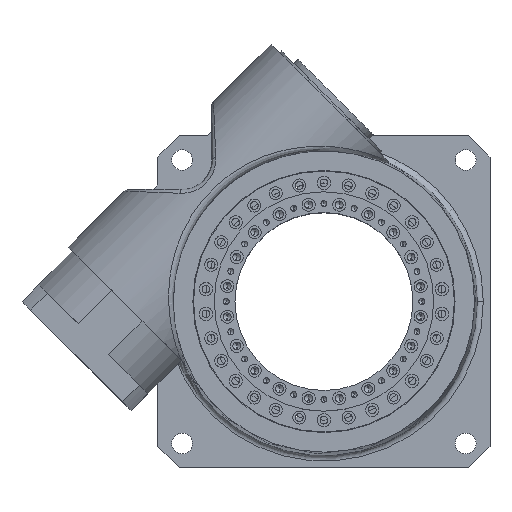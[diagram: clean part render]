
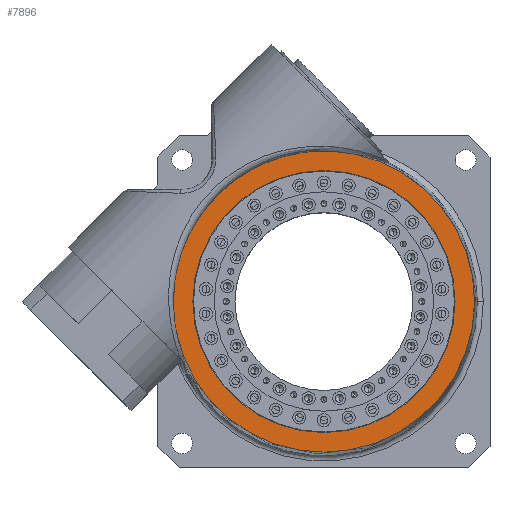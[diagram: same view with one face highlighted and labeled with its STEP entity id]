
A CAD part, top view. The second image highlights one B-rep face of the part: STEP entity #7896.
In plain terms, the highlighted planar face has unit normal (0, 0, 1).
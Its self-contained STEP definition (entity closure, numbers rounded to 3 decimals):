
#885 = CARTESIAN_POINT ( 'NONE',  ( 110.5, 0., 120. ) ) ;
#1503 = FACE_OUTER_BOUND ( 'NONE', #3286, .T. ) ;
#1722 = CIRCLE ( 'NONE', #10811, 127. ) ;
#1816 = DIRECTION ( 'NONE',  ( 0., 0., -1. ) ) ;
#2053 = DIRECTION ( 'NONE',  ( 0., 0., 1. ) ) ;
#2076 = ORIENTED_EDGE ( 'NONE', *, *, #8409, .T. ) ;
#2250 = CARTESIAN_POINT ( 'NONE',  ( -110.5, 0., 120. ) ) ;
#3286 = EDGE_LOOP ( 'NONE', ( #14381, #12321, #11650 ) ) ;
#3391 = VERTEX_POINT ( 'NONE', #14944 ) ;
#3442 = CIRCLE ( 'NONE', #7875, 127. ) ;
#3767 = DIRECTION ( 'NONE',  ( 0., 0., 1. ) ) ;
#4083 = AXIS2_PLACEMENT_3D ( 'NONE', #12449, #4583, #7510 ) ;
#4583 = DIRECTION ( 'NONE',  ( 0., 0., -1. ) ) ;
#5214 = PLANE ( 'NONE',  #12367 ) ;
#5369 = CARTESIAN_POINT ( 'NONE',  ( 0., 0., 120. ) ) ;
#5554 = EDGE_CURVE ( 'NONE', #11595, #3391, #9813, .T. ) ;
#6531 = AXIS2_PLACEMENT_3D ( 'NONE', #8383, #1816, #14777 ) ;
#6594 = DIRECTION ( 'NONE',  ( 1., 0., 0. ) ) ;
#6682 = FACE_BOUND ( 'NONE', #14199, .T. ) ;
#7171 = EDGE_CURVE ( 'NONE', #15397, #12535, #7365, .T. ) ;
#7309 = VERTEX_POINT ( 'NONE', #9924 ) ;
#7365 = CIRCLE ( 'NONE', #6531, 110.5 ) ;
#7510 = DIRECTION ( 'NONE',  ( 1., 0., 0. ) ) ;
#7589 = CARTESIAN_POINT ( 'NONE',  ( 0., 0., 120. ) ) ;
#7821 = ORIENTED_EDGE ( 'NONE', *, *, #7171, .T. ) ;
#7875 = AXIS2_PLACEMENT_3D ( 'NONE', #7589, #2053, #8629 ) ;
#7896 = ADVANCED_FACE ( 'NONE', ( #1503, #6682 ), #5214, .T. ) ;
#8048 = DIRECTION ( 'NONE',  ( 1., 0., 0. ) ) ;
#8383 = CARTESIAN_POINT ( 'NONE',  ( 0., 0., 120. ) ) ;
#8409 = EDGE_CURVE ( 'NONE', #12535, #15397, #14573, .T. ) ;
#8629 = DIRECTION ( 'NONE',  ( 1., 0., 0. ) ) ;
#9813 = CIRCLE ( 'NONE', #12844, 127. ) ;
#9924 = CARTESIAN_POINT ( 'NONE',  ( -127., 0., 120. ) ) ;
#10479 = EDGE_CURVE ( 'NONE', #7309, #11595, #3442, .T. ) ;
#10648 = CARTESIAN_POINT ( 'NONE',  ( 0., 0., 120. ) ) ;
#10811 = AXIS2_PLACEMENT_3D ( 'NONE', #5369, #15985, #8048 ) ;
#11595 = VERTEX_POINT ( 'NONE', #15118 ) ;
#11650 = ORIENTED_EDGE ( 'NONE', *, *, #10479, .T. ) ;
#12321 = ORIENTED_EDGE ( 'NONE', *, *, #15667, .T. ) ;
#12367 = AXIS2_PLACEMENT_3D ( 'NONE', #10648, #16948, #6594 ) ;
#12449 = CARTESIAN_POINT ( 'NONE',  ( 0., 0., 120. ) ) ;
#12535 = VERTEX_POINT ( 'NONE', #2250 ) ;
#12844 = AXIS2_PLACEMENT_3D ( 'NONE', #14565, #3767, #17058 ) ;
#14199 = EDGE_LOOP ( 'NONE', ( #2076, #7821 ) ) ;
#14381 = ORIENTED_EDGE ( 'NONE', *, *, #5554, .T. ) ;
#14565 = CARTESIAN_POINT ( 'NONE',  ( 0., 0., 120. ) ) ;
#14573 = CIRCLE ( 'NONE', #4083, 110.5 ) ;
#14777 = DIRECTION ( 'NONE',  ( 1., 0., 0. ) ) ;
#14944 = CARTESIAN_POINT ( 'NONE',  ( 24.627, 124.589, 120. ) ) ;
#15118 = CARTESIAN_POINT ( 'NONE',  ( -124.589, -24.627, 120. ) ) ;
#15397 = VERTEX_POINT ( 'NONE', #885 ) ;
#15667 = EDGE_CURVE ( 'NONE', #3391, #7309, #1722, .T. ) ;
#15985 = DIRECTION ( 'NONE',  ( 0., 0., 1. ) ) ;
#16948 = DIRECTION ( 'NONE',  ( 0., 0., 1. ) ) ;
#17058 = DIRECTION ( 'NONE',  ( 1., 0., 0. ) ) ;
